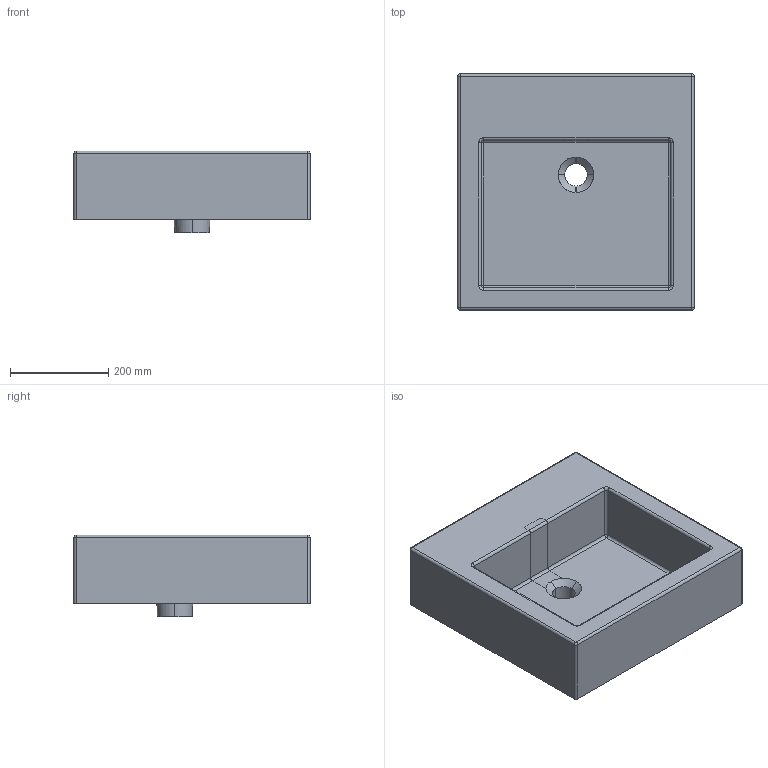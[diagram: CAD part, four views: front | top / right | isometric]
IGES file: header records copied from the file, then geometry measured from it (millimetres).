
Start section: START RECORD GO HERE.
Global section: file name: 6022_3D.igs; native system: DASSAULT SYSTEMES CATIA V5 R19 - www.3ds.com; preprocessor: CATIA Version 5 Release 19 SP 5 ; author: gioge; organization: LAPTOP-G94B6G74; date: 20201026.113648; units: millimetre
Bounding box: 480 x 480 x 166.5 mm (x, y, z)
Surface area: 670138.5 mm2 (no closed solid volume)
Topology: 0 solids, 0 shells, 67 faces, 297 edges, 287 vertices
Faces by surface type: revolution 43, plane 16, bspline 8
